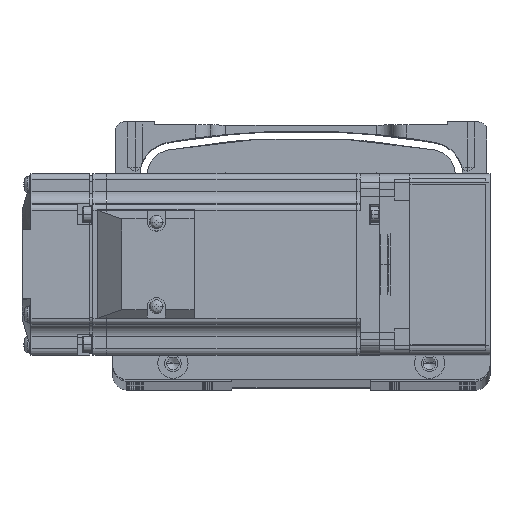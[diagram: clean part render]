
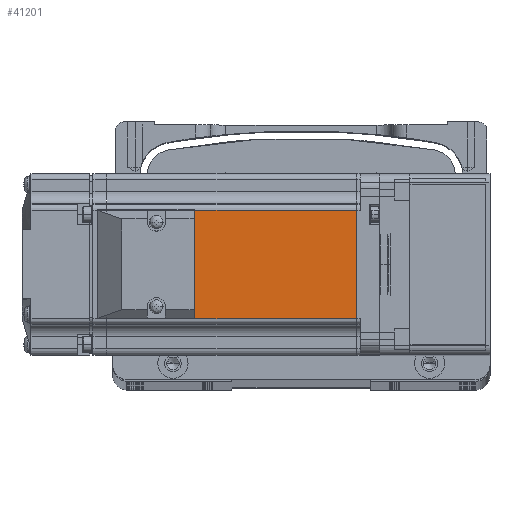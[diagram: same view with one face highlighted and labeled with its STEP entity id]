
A CAD part, top view. The second image highlights one B-rep face of the part: STEP entity #41201.
In plain terms, the highlighted planar face has unit normal (0, 0, 1) as drawn and (0, 1, 0) by its records, which use the part's own axes.
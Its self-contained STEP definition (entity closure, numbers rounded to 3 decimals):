
#725 = EDGE_CURVE ( 'NONE', #30746, #59232, #63190, .T. ) ;
#1480 = VECTOR ( 'NONE', #19447, 1000. ) ;
#1505 = VECTOR ( 'NONE', #58889, 1000. ) ;
#3092 = CARTESIAN_POINT ( 'NONE',  ( -90.45, 30., 18. ) ) ;
#6289 = ORIENTED_EDGE ( 'NONE', *, *, #725, .T. ) ;
#14303 = CARTESIAN_POINT ( 'NONE',  ( -7.75, 30., -18. ) ) ;
#19447 = DIRECTION ( 'NONE',  ( 0., 0., 1. ) ) ;
#20415 = EDGE_CURVE ( 'NONE', #31652, #30746, #74021, .T. ) ;
#21449 = AXIS2_PLACEMENT_3D ( 'NONE', #70948, #30070, #77801 ) ;
#21755 = LINE ( 'NONE', #79132, #1505 ) ;
#26303 = CARTESIAN_POINT ( 'NONE',  ( -90.45, 30., 0. ) ) ;
#27397 = CARTESIAN_POINT ( 'NONE',  ( -6.5, 30., 18. ) ) ;
#30070 = DIRECTION ( 'NONE',  ( 0., 1., 0. ) ) ;
#30746 = VERTEX_POINT ( 'NONE', #3092 ) ;
#31070 = VECTOR ( 'NONE', #79394, 1000. ) ;
#31652 = VERTEX_POINT ( 'NONE', #36903 ) ;
#36662 = PLANE ( 'NONE',  #21449 ) ;
#36903 = CARTESIAN_POINT ( 'NONE',  ( -90.45, 30., -18. ) ) ;
#41201 = ADVANCED_FACE ( 'NONE', ( #43227 ), #36662, .T. ) ;
#43227 = FACE_OUTER_BOUND ( 'NONE', #57503, .T. ) ;
#44442 = CARTESIAN_POINT ( 'NONE',  ( -7.75, 30., 18. ) ) ;
#47189 = VECTOR ( 'NONE', #75128, 1000. ) ;
#53151 = ORIENTED_EDGE ( 'NONE', *, *, #20415, .T. ) ;
#54818 = ORIENTED_EDGE ( 'NONE', *, *, #74477, .F. ) ;
#57503 = EDGE_LOOP ( 'NONE', ( #54818, #71613, #53151, #6289 ) ) ;
#58889 = DIRECTION ( 'NONE',  ( 0., 0., 1. ) ) ;
#59232 = VERTEX_POINT ( 'NONE', #44442 ) ;
#61832 = EDGE_CURVE ( 'NONE', #68345, #31652, #67366, .T. ) ;
#63190 = LINE ( 'NONE', #27397, #47189 ) ;
#67366 = LINE ( 'NONE', #72532, #31070 ) ;
#68345 = VERTEX_POINT ( 'NONE', #14303 ) ;
#70948 = CARTESIAN_POINT ( 'NONE',  ( -6.5, 30., 25. ) ) ;
#71613 = ORIENTED_EDGE ( 'NONE', *, *, #61832, .T. ) ;
#72532 = CARTESIAN_POINT ( 'NONE',  ( -6.5, 30., -18. ) ) ;
#74021 = LINE ( 'NONE', #26303, #1480 ) ;
#74477 = EDGE_CURVE ( 'NONE', #68345, #59232, #21755, .T. ) ;
#75128 = DIRECTION ( 'NONE',  ( 1., 0., 0. ) ) ;
#77801 = DIRECTION ( 'NONE',  ( 0., 0., 1. ) ) ;
#79132 = CARTESIAN_POINT ( 'NONE',  ( -7.75, 30., 0. ) ) ;
#79394 = DIRECTION ( 'NONE',  ( -1., 0., 0. ) ) ;
